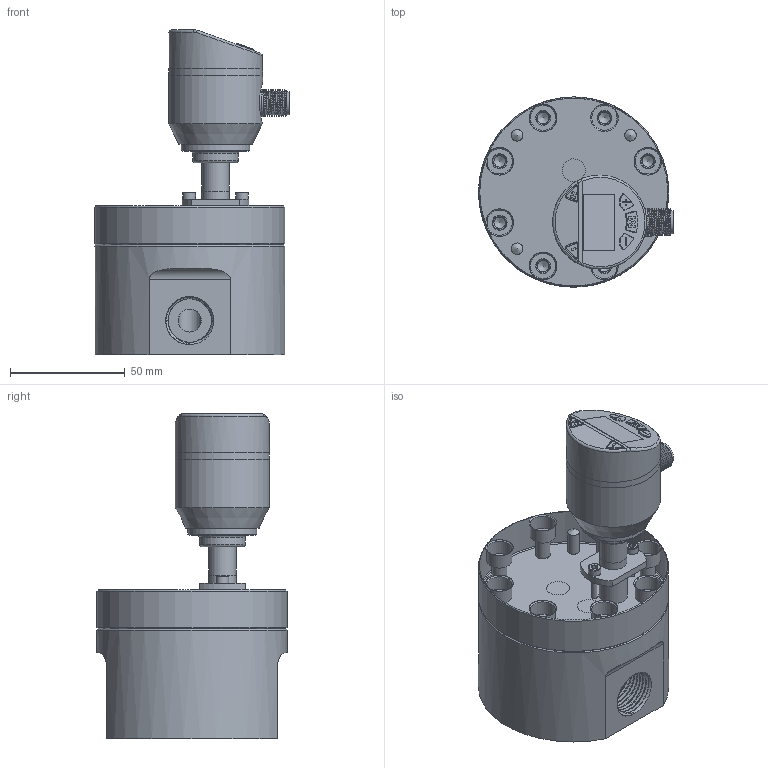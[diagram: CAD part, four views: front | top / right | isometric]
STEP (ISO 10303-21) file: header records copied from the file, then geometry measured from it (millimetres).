
FILE_DESCRIPTION( (''), '2;1');
FILE_NAME( 'QZKA_M10_G1-2.step', '2024-02-26T10:36:26+08:00', (''), (''), '', '', '');
FILE_SCHEMA (('AUTOMOTIVE_DESIGN { 1 0 10303 214 3 1 1 1 }'));
Length unit declared in the file: millimetre
Products named in the file (1): QZKA M10_G1-2
Bounding box: 84.95 x 83 x 142.2 mm (x, y, z)
Volume: 355677.9 mm3; surface area: 75485.3 mm2
Topology: 9 solids, 10 shells, 540 faces, 1289 edges, 807 vertices
Faces by surface type: plane 184, cylinder 183, cone 92, torus 43, bspline 32, sphere 6
Full cylindrical faces by diameter (mm): 1 x5, 2.5 x2, 2.7 x4, 2.874 x2, 3.5 x2, 5 x18, 5.5 x2, 6.5 x8, 8 x2, 8.4 x1, 9.7 x1, 9.8 x1, 10 x6, 10.1 x1, 11 x8, 11.6 x1, 12 x3, 12.5 x1, 16.5 x1, 20 x1, 23 x3, 26 x4, 26.1 x1, 30 x1, 37 x1, 41 x3, 83 x2
Entity records: 32988 total; most frequent: CARTESIAN_POINT 20090, DIRECTION 2412, ORIENTED_EDGE 2068, EDGE_CURVE 1034, AXIS2_PLACEMENT_3D 1013, EDGE_LOOP 764, VERTEX_POINT 736, ADVANCED_FACE 536
